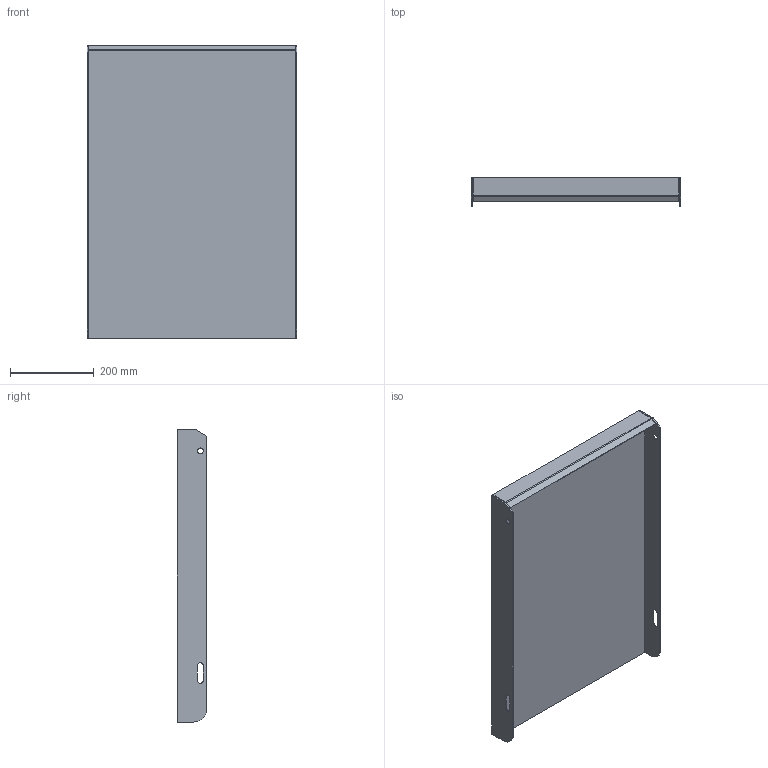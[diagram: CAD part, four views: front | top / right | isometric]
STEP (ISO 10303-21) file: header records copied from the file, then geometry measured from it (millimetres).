
FILE_DESCRIPTION (( 'STEP AP203' ), '1' );
FILE_NAME ('148805071, Plan TH6, 500x700, vfz.STEP', '2020-10-21T13:28:06', ( '' ), ( '' ), 'SwSTEP 2.0', 'SolidWorks 2019', '' );
FILE_SCHEMA (( 'CONFIG_CONTROL_DESIGN' ));
Length unit declared in the file: millimetre
Products named in the file (4): 148805071, Plan TH6, 500x700, vfz; SW0000041823; SW0000041386; SW0000041476
Assembly tree (4 placements, depth 2):
  148805071, Plan TH6, 500x700, vfz
    SW0000041823
    SW0000041386  x2
    SW0000041476
Bounding box: 500 x 70 x 697 mm (x, y, z)
Volume: 7229080.7 mm3; surface area: 996504.7 mm2
Topology: 4 solids, 4 shells, 59 faces, 142 edges, 92 vertices
Faces by surface type: plane 45, cylinder 14
Entity records: 1693 total; most frequent: DIRECTION 221, CARTESIAN_POINT 220, ORIENTED_EDGE 206, EDGE_CURVE 103, LINE 87, VECTOR 87, AXIS2_PLACEMENT_3D 67, VERTEX_POINT 66
